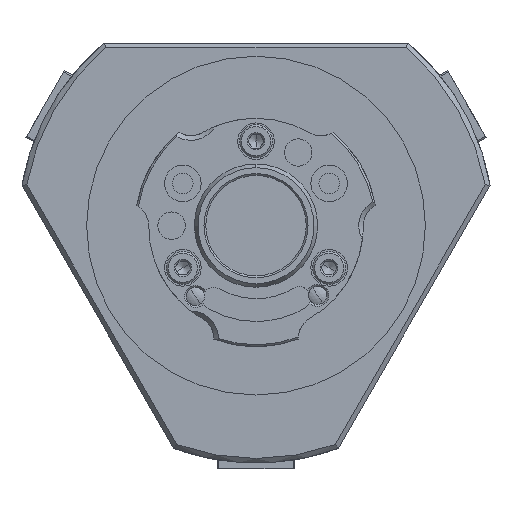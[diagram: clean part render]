
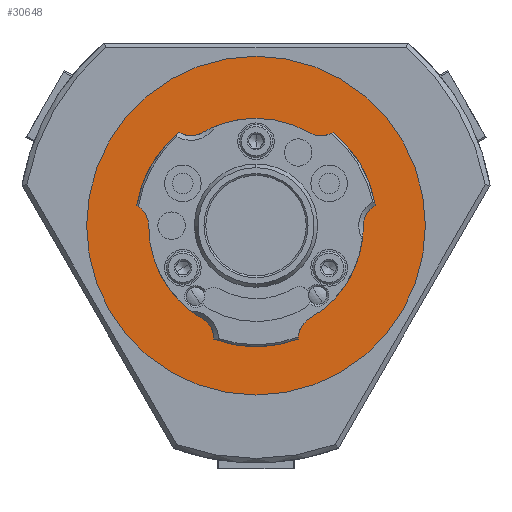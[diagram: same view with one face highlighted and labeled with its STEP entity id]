
A CAD part, front view. The second image highlights one B-rep face of the part: STEP entity #30648.
In plain terms, the highlighted planar face has unit normal (0, -1, 0).
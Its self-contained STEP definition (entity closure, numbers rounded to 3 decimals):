
#2986 = DIRECTION ( 'NONE',  ( 0., 0., 1. ) ) ;
#4197 = CIRCLE ( 'NONE', #53160, 23.5 ) ;
#4541 = EDGE_CURVE ( 'NONE', #17178, #16563, #32148, .T. ) ;
#6207 = CARTESIAN_POINT ( 'NONE',  ( 0., 6., 0. ) ) ;
#6615 = ORIENTED_EDGE ( 'NONE', *, *, #50819, .F. ) ;
#7033 = DIRECTION ( 'NONE',  ( 0., 1., 0. ) ) ;
#8177 = CARTESIAN_POINT ( 'NONE',  ( 0., 6., -37.1 ) ) ;
#10854 = EDGE_CURVE ( 'NONE', #15772, #52701, #4197, .T. ) ;
#11093 = CARTESIAN_POINT ( 'NONE',  ( 0., 6., 23.5 ) ) ;
#11830 = DIRECTION ( 'NONE',  ( 0., 0., 1. ) ) ;
#11933 = CARTESIAN_POINT ( 'NONE',  ( 0., 6., 0. ) ) ;
#14783 = CIRCLE ( 'NONE', #18229, 23.5 ) ;
#15772 = VERTEX_POINT ( 'NONE', #46901 ) ;
#16563 = VERTEX_POINT ( 'NONE', #42994 ) ;
#17178 = VERTEX_POINT ( 'NONE', #8177 ) ;
#18229 = AXIS2_PLACEMENT_3D ( 'NONE', #6207, #7033, #2986 ) ;
#19157 = FACE_BOUND ( 'NONE', #30818, .T. ) ;
#20024 = AXIS2_PLACEMENT_3D ( 'NONE', #11093, #22949, #31516 ) ;
#22949 = DIRECTION ( 'NONE',  ( 0., -1., 0. ) ) ;
#23755 = PLANE ( 'NONE',  #20024 ) ;
#28311 = DIRECTION ( 'NONE',  ( 0., 0., 1. ) ) ;
#29641 = EDGE_CURVE ( 'NONE', #52701, #15772, #14783, .T. ) ;
#30456 = AXIS2_PLACEMENT_3D ( 'NONE', #40047, #48653, #11830 ) ;
#30648 = ADVANCED_FACE ( 'NONE', ( #19157, #47104 ), #23755, .T. ) ;
#30818 = EDGE_LOOP ( 'NONE', ( #38034, #51700 ) ) ;
#31516 = DIRECTION ( 'NONE',  ( 0., 0., -1. ) ) ;
#32148 = CIRCLE ( 'NONE', #45871, 37.1 ) ;
#33365 = ORIENTED_EDGE ( 'NONE', *, *, #4541, .F. ) ;
#33552 = CARTESIAN_POINT ( 'NONE',  ( 0., 6., 0. ) ) ;
#36881 = DIRECTION ( 'NONE',  ( 0., 1., 0. ) ) ;
#38034 = ORIENTED_EDGE ( 'NONE', *, *, #10854, .T. ) ;
#39715 = EDGE_LOOP ( 'NONE', ( #6615, #33365 ) ) ;
#40047 = CARTESIAN_POINT ( 'NONE',  ( 0., 6., 0. ) ) ;
#40482 = CARTESIAN_POINT ( 'NONE',  ( 0., 6., -23.5 ) ) ;
#42994 = CARTESIAN_POINT ( 'NONE',  ( 0., 6., 37.1 ) ) ;
#44736 = CIRCLE ( 'NONE', #30456, 37.1 ) ;
#45871 = AXIS2_PLACEMENT_3D ( 'NONE', #11933, #36881, #28311 ) ;
#46901 = CARTESIAN_POINT ( 'NONE',  ( 0., 6., 23.5 ) ) ;
#47104 = FACE_OUTER_BOUND ( 'NONE', #39715, .T. ) ;
#47466 = DIRECTION ( 'NONE',  ( 0., 1., 0. ) ) ;
#48653 = DIRECTION ( 'NONE',  ( 0., 1., 0. ) ) ;
#49976 = DIRECTION ( 'NONE',  ( 0., 0., 1. ) ) ;
#50819 = EDGE_CURVE ( 'NONE', #16563, #17178, #44736, .T. ) ;
#51700 = ORIENTED_EDGE ( 'NONE', *, *, #29641, .T. ) ;
#52701 = VERTEX_POINT ( 'NONE', #40482 ) ;
#53160 = AXIS2_PLACEMENT_3D ( 'NONE', #33552, #47466, #49976 ) ;
